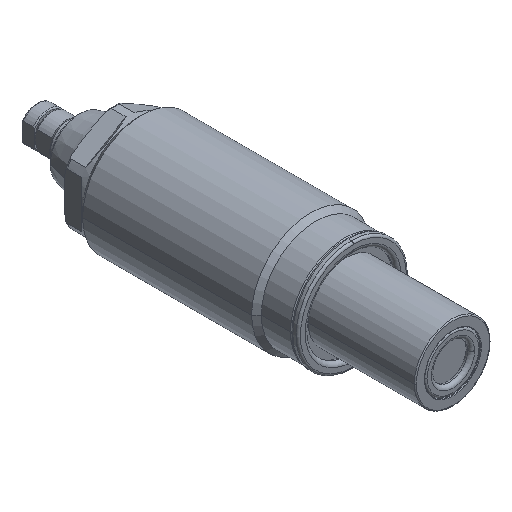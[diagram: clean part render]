
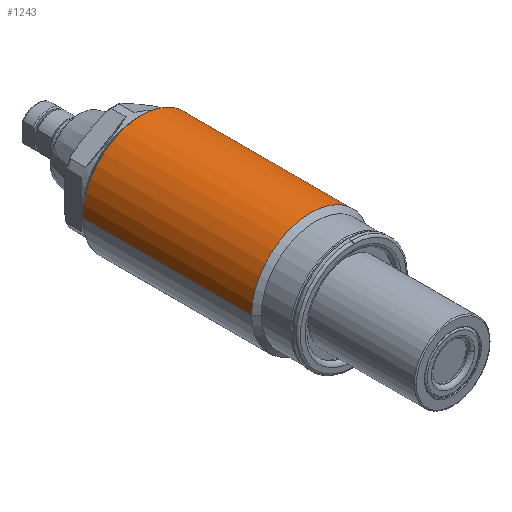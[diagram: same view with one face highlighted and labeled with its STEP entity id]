
A CAD part, isometric view. The second image highlights one B-rep face of the part: STEP entity #1243.
In plain terms, the highlighted cylindrical face has radius 11 mm (diameter 22 mm), a partial arc.
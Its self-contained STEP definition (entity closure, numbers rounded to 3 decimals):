
#952=CYLINDRICAL_SURFACE('',#3332,11.);
#1034=LINE('',#4958,#1125);
#1035=LINE('',#4962,#1126);
#1125=VECTOR('',#4021,1.);
#1126=VECTOR('',#4024,1.);
#1243=ADVANCED_FACE('',(#1438),#952,.T.);
#1438=FACE_OUTER_BOUND('',#1592,.T.);
#1592=EDGE_LOOP('',(#2084,#2085,#2086,#2087));
#2084=ORIENTED_EDGE('',*,*,#2782,.T.);
#2085=ORIENTED_EDGE('',*,*,#2784,.T.);
#2086=ORIENTED_EDGE('',*,*,#2785,.F.);
#2087=ORIENTED_EDGE('',*,*,#2786,.F.);
#2501=VERTEX_POINT('',#4953);
#2502=VERTEX_POINT('',#4955);
#2503=VERTEX_POINT('',#4959);
#2504=VERTEX_POINT('',#4961);
#2782=EDGE_CURVE('',#2502,#2501,#3029,.T.);
#2784=EDGE_CURVE('',#2501,#2503,#1034,.T.);
#2785=EDGE_CURVE('',#2504,#2503,#3030,.T.);
#2786=EDGE_CURVE('',#2502,#2504,#1035,.T.);
#3029=CIRCLE('',#3329,11.);
#3030=CIRCLE('',#3331,11.);
#3329=AXIS2_PLACEMENT_3D('',#4954,#4016,#4017);
#3331=AXIS2_PLACEMENT_3D('',#4960,#4022,#4023);
#3332=AXIS2_PLACEMENT_3D('',#4963,#4025,#4026);
#4016=DIRECTION('',(0.,-1.,0.));
#4017=DIRECTION('',(1.,0.,0.));
#4021=DIRECTION('',(0.,-1.,0.));
#4022=DIRECTION('',(0.,-1.,0.));
#4023=DIRECTION('',(1.,0.,0.));
#4024=DIRECTION('',(0.,-1.,0.));
#4025=DIRECTION('',(0.,-1.,0.));
#4026=DIRECTION('',(-1.,0.,0.));
#4953=CARTESIAN_POINT('',(-11.,56.5,0.));
#4954=CARTESIAN_POINT('',(0.,56.5,0.));
#4955=CARTESIAN_POINT('',(11.,56.5,0.));
#4958=CARTESIAN_POINT('',(-11.,0.,0.));
#4959=CARTESIAN_POINT('',(-11.,25.1,0.));
#4960=CARTESIAN_POINT('',(0.,25.1,0.));
#4961=CARTESIAN_POINT('',(11.,25.1,0.));
#4962=CARTESIAN_POINT('',(11.,0.,0.));
#4963=CARTESIAN_POINT('',(0.,0.,0.));
